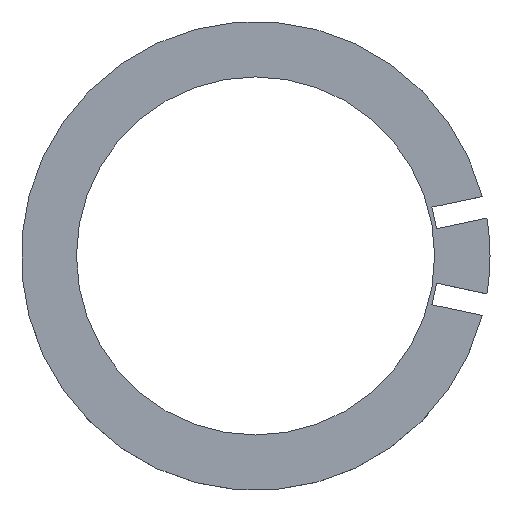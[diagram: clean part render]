
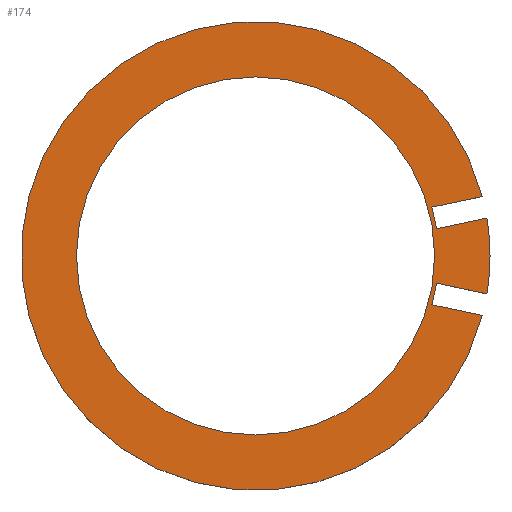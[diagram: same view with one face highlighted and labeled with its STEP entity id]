
A CAD part, top view. The second image highlights one B-rep face of the part: STEP entity #174.
In plain terms, the highlighted planar face has unit normal (0, 0, 1).
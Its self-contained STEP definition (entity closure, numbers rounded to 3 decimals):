
#24 = VERTEX_POINT('',#25);
#25 = CARTESIAN_POINT('',(72.,36.,7.));
#31 = EDGE_CURVE('',#32,#24,#34,.T.);
#32 = VERTEX_POINT('',#33);
#33 = CARTESIAN_POINT('',(71.527,30.186,7.));
#34 = CIRCLE('',#35,36.);
#35 = AXIS2_PLACEMENT_3D('',#36,#37,#38);
#36 = CARTESIAN_POINT('',(36.,36.,7.));
#37 = DIRECTION('',(0.,0.,1.));
#38 = DIRECTION('',(1.,0.,0.));
#63 = EDGE_CURVE('',#24,#64,#66,.T.);
#64 = VERTEX_POINT('',#65);
#65 = CARTESIAN_POINT('',(71.527,41.814,7.));
#66 = CIRCLE('',#67,36.);
#67 = AXIS2_PLACEMENT_3D('',#68,#69,#70);
#68 = CARTESIAN_POINT('',(36.,36.,7.));
#69 = DIRECTION('',(0.,0.,1.));
#70 = DIRECTION('',(1.,0.,0.));
#149 = VERTEX_POINT('',#150);
#150 = CARTESIAN_POINT('',(63.79,31.831,7.));
#156 = EDGE_CURVE('',#32,#149,#157,.T.);
#157 = LINE('',#158,#159);
#158 = CARTESIAN_POINT('',(50.072,34.747,7.));
#159 = VECTOR('',#160,1.);
#160 = DIRECTION('',(-0.978,0.208,0.));
#174 = ADVANCED_FACE('',(#175,#227),#238,.T.);
#175 = FACE_BOUND('',#176,.T.);
#176 = EDGE_LOOP('',(#177,#178,#179,#187,#195,#203,#212,#220,#226));
#177 = ORIENTED_EDGE('',*,*,#31,.T.);
#178 = ORIENTED_EDGE('',*,*,#63,.T.);
#179 = ORIENTED_EDGE('',*,*,#180,.T.);
#180 = EDGE_CURVE('',#64,#181,#183,.T.);
#181 = VERTEX_POINT('',#182);
#182 = CARTESIAN_POINT('',(63.79,40.169,7.));
#183 = LINE('',#184,#185);
#184 = CARTESIAN_POINT('',(50.072,37.253,7.));
#185 = VECTOR('',#186,1.);
#186 = DIRECTION('',(-0.978,-0.208,0.));
#187 = ORIENTED_EDGE('',*,*,#188,.T.);
#188 = EDGE_CURVE('',#181,#189,#191,.T.);
#189 = VERTEX_POINT('',#190);
#190 = CARTESIAN_POINT('',(63.084,43.495,7.));
#191 = LINE('',#192,#193);
#192 = CARTESIAN_POINT('',(63.614,41.,7.));
#193 = VECTOR('',#194,1.);
#194 = DIRECTION('',(-0.208,0.978,0.));
#195 = ORIENTED_EDGE('',*,*,#196,.F.);
#196 = EDGE_CURVE('',#197,#189,#199,.T.);
#197 = VERTEX_POINT('',#198);
#198 = CARTESIAN_POINT('',(70.821,45.139,7.));
#199 = LINE('',#200,#201);
#200 = CARTESIAN_POINT('',(49.365,40.579,7.));
#201 = VECTOR('',#202,1.);
#202 = DIRECTION('',(-0.978,-0.208,0.));
#203 = ORIENTED_EDGE('',*,*,#204,.T.);
#204 = EDGE_CURVE('',#197,#205,#207,.T.);
#205 = VERTEX_POINT('',#206);
#206 = CARTESIAN_POINT('',(70.821,26.861,7.));
#207 = CIRCLE('',#208,36.);
#208 = AXIS2_PLACEMENT_3D('',#209,#210,#211);
#209 = CARTESIAN_POINT('',(36.,36.,7.));
#210 = DIRECTION('',(0.,0.,1.));
#211 = DIRECTION('',(1.,0.,0.));
#212 = ORIENTED_EDGE('',*,*,#213,.T.);
#213 = EDGE_CURVE('',#205,#214,#216,.T.);
#214 = VERTEX_POINT('',#215);
#215 = CARTESIAN_POINT('',(63.084,28.505,7.));
#216 = LINE('',#217,#218);
#217 = CARTESIAN_POINT('',(49.365,31.421,7.));
#218 = VECTOR('',#219,1.);
#219 = DIRECTION('',(-0.978,0.208,0.));
#220 = ORIENTED_EDGE('',*,*,#221,.T.);
#221 = EDGE_CURVE('',#214,#149,#222,.T.);
#222 = LINE('',#223,#224);
#223 = CARTESIAN_POINT('',(63.26,29.337,7.));
#224 = VECTOR('',#225,1.);
#225 = DIRECTION('',(0.208,0.978,0.));
#226 = ORIENTED_EDGE('',*,*,#156,.F.);
#227 = FACE_BOUND('',#228,.T.);
#228 = EDGE_LOOP('',(#229));
#229 = ORIENTED_EDGE('',*,*,#230,.F.);
#230 = EDGE_CURVE('',#231,#231,#233,.T.);
#231 = VERTEX_POINT('',#232);
#232 = CARTESIAN_POINT('',(63.5,36.,7.));
#233 = CIRCLE('',#234,27.5);
#234 = AXIS2_PLACEMENT_3D('',#235,#236,#237);
#235 = CARTESIAN_POINT('',(36.,36.,7.));
#236 = DIRECTION('',(0.,0.,1.));
#237 = DIRECTION('',(1.,0.,0.));
#238 = PLANE('',#239);
#239 = AXIS2_PLACEMENT_3D('',#240,#241,#242);
#240 = CARTESIAN_POINT('',(36.,36.,7.));
#241 = DIRECTION('',(0.,0.,1.));
#242 = DIRECTION('',(1.,0.,0.));
